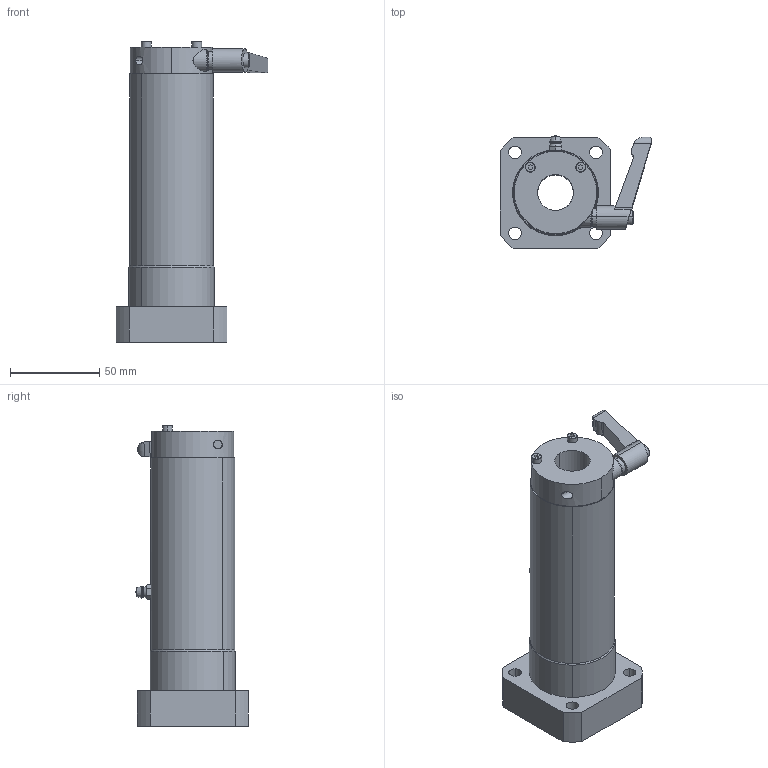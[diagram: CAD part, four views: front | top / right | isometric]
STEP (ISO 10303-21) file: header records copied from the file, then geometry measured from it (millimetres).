
FILE_DESCRIPTION (( 'STEP AP214' ), '1' );
FILE_NAME ('LFWL20A-CS.STEP', '2023-06-27T02:33:49', ( '' ), ( '' ), 'SwSTEP 2.0', 'SolidWorks 2019', '' );
FILE_SCHEMA (( 'AUTOMOTIVE_DESIGN' ));
Length unit declared in the file: millimetre
Products named in the file (3): LFWL20A; LFWL20A-CS; “ÁSCK2015SS-S3.4
Assembly tree (2 placements, depth 2):
  LFWL20A-CS
    LFWL20A
    “ÁSCK2015SS-S3.4
Bounding box: 84.9 x 62.9 x 168 mm (x, y, z)
Volume: 274605.9 mm3; surface area: 56932.4 mm2
Topology: 3 solids, 9 shells, 235 faces, 571 edges, 361 vertices
Faces by surface type: cylinder 85, plane 69, bspline 47, cone 22, torus 8, sphere 4
Entity records: 10231 total; most frequent: CARTESIAN_POINT 2290, DIRECTION 1185, ORIENTED_EDGE 1138, EDGE_CURVE 569, AXIS2_PLACEMENT_3D 489, VERTEX_POINT 360, CIRCLE 296, EDGE_LOOP 283
